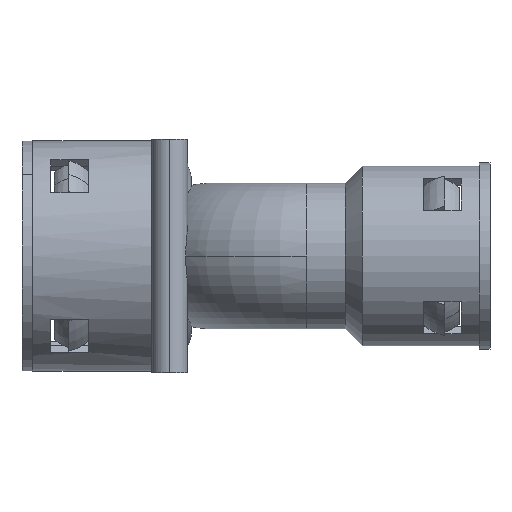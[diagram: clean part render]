
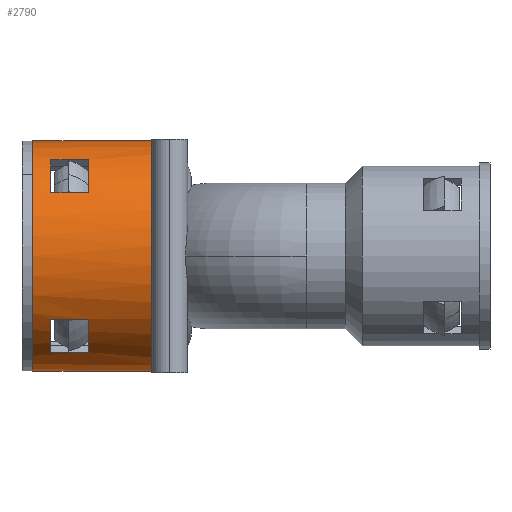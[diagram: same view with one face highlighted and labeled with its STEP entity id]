
A CAD part, left-side view. The second image highlights one B-rep face of the part: STEP entity #2790.
In plain terms, the highlighted cylindrical face has radius 32 mm (diameter 64 mm), a partial arc.
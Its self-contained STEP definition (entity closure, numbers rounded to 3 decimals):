
#62 = VERTEX_POINT ( 'NONE', #1481 ) ;
#68 = VERTEX_POINT ( 'NONE', #1480 ) ;
#101 = VERTEX_POINT ( 'NONE', #1557 ) ;
#102 = EDGE_CURVE ( 'NONE', #101, #68, #1553, .T. ) ;
#221 = VERTEX_POINT ( 'NONE', #3596 ) ;
#235 = EDGE_CURVE ( 'NONE', #62, #221, #3649, .T. ) ;
#479 = EDGE_CURVE ( 'NONE', #594, #572, #4122, .T. ) ;
#505 = ORIENTED_EDGE ( 'NONE', *, *, #479, .F. ) ;
#521 = ORIENTED_EDGE ( 'NONE', *, *, #102, .F. ) ;
#548 = ORIENTED_EDGE ( 'NONE', *, *, #561, .T. ) ;
#557 = ORIENTED_EDGE ( 'NONE', *, *, #2756, .F. ) ;
#561 = EDGE_CURVE ( 'NONE', #101, #62, #4321, .T. ) ;
#562 = ORIENTED_EDGE ( 'NONE', *, *, #924, .F. ) ;
#572 = VERTEX_POINT ( 'NONE', #4303 ) ;
#574 = VERTEX_POINT ( 'NONE', #4277 ) ;
#575 = EDGE_LOOP ( 'NONE', ( #595, #505, #590, #2042 ) ) ;
#589 = EDGE_CURVE ( 'NONE', #591, #594, #4346, .T. ) ;
#590 = ORIENTED_EDGE ( 'NONE', *, *, #589, .F. ) ;
#591 = VERTEX_POINT ( 'NONE', #4332 ) ;
#592 = EDGE_CURVE ( 'NONE', #572, #574, #4331, .T. ) ;
#593 = ORIENTED_EDGE ( 'NONE', *, *, #2959, .F. ) ;
#594 = VERTEX_POINT ( 'NONE', #4339 ) ;
#595 = ORIENTED_EDGE ( 'NONE', *, *, #592, .F. ) ;
#606 = ORIENTED_EDGE ( 'NONE', *, *, #235, .T. ) ;
#924 = EDGE_CURVE ( 'NONE', #10757, #10748, #4948, .T. ) ;
#1480 = CARTESIAN_POINT ( 'NONE',  ( 0., 91., 32. ) ) ;
#1481 = CARTESIAN_POINT ( 'NONE',  ( 0., 124., -32. ) ) ;
#1550 = DIRECTION ( 'NONE',  ( 0., -1., 0. ) ) ;
#1552 = CARTESIAN_POINT ( 'NONE',  ( 0., 0., 32. ) ) ;
#1553 = LINE ( 'NONE', #1552, #1554 ) ;
#1554 = VECTOR ( 'NONE', #1550, 1000. ) ;
#1557 = CARTESIAN_POINT ( 'NONE',  ( 0., 124., 32. ) ) ;
#2041 = VERTEX_POINT ( 'NONE', #6690 ) ;
#2042 = ORIENTED_EDGE ( 'NONE', *, *, #2172, .F. ) ;
#2118 = EDGE_CURVE ( 'NONE', #2166, #2149, #6830, .T. ) ;
#2119 = VERTEX_POINT ( 'NONE', #6822 ) ;
#2139 = EDGE_CURVE ( 'NONE', #2041, #2166, #6857, .T. ) ;
#2140 = ORIENTED_EDGE ( 'NONE', *, *, #2164, .F. ) ;
#2148 = ORIENTED_EDGE ( 'NONE', *, *, #2118, .F. ) ;
#2149 = VERTEX_POINT ( 'NONE', #6846 ) ;
#2161 = ORIENTED_EDGE ( 'NONE', *, *, #2173, .F. ) ;
#2164 = EDGE_CURVE ( 'NONE', #2149, #2119, #6842, .T. ) ;
#2166 = VERTEX_POINT ( 'NONE', #6922 ) ;
#2167 = EDGE_LOOP ( 'NONE', ( #2140, #2148, #2169, #2161 ) ) ;
#2169 = ORIENTED_EDGE ( 'NONE', *, *, #2139, .F. ) ;
#2172 = EDGE_CURVE ( 'NONE', #574, #591, #6865, .T. ) ;
#2173 = EDGE_CURVE ( 'NONE', #2119, #2041, #6921, .T. ) ;
#2747 = EDGE_LOOP ( 'NONE', ( #521, #548, #606, #593, #562, #557 ) ) ;
#2756 = EDGE_CURVE ( 'NONE', #68, #10757, #7807, .T. ) ;
#2790 = ADVANCED_FACE ( 'NONE', ( #7857, #7885, #7926 ), #7828, .T. ) ;
#2959 = EDGE_CURVE ( 'NONE', #10748, #221, #8512, .T. ) ;
#3411 = DIRECTION ( 'NONE',  ( 0., -1., 0. ) ) ;
#3415 = DIRECTION ( 'NONE',  ( 0., 0., 1. ) ) ;
#3596 = CARTESIAN_POINT ( 'NONE',  ( 0., 91., -32. ) ) ;
#3615 = VECTOR ( 'NONE', #3621, 1000. ) ;
#3621 = DIRECTION ( 'NONE',  ( 0., -1., 0. ) ) ;
#3622 = CARTESIAN_POINT ( 'NONE',  ( 0., 0., -32. ) ) ;
#3649 = LINE ( 'NONE', #3622, #3615 ) ;
#4099 = AXIS2_PLACEMENT_3D ( 'NONE', #4130, #3411, #3415 ) ;
#4122 = CIRCLE ( 'NONE', #4099, 32. ) ;
#4130 = CARTESIAN_POINT ( 'NONE',  ( 0., 119., 0. ) ) ;
#4277 = CARTESIAN_POINT ( 'NONE',  ( -26.752, 108.5, 17.56 ) ) ;
#4303 = CARTESIAN_POINT ( 'NONE',  ( -26.752, 119., 17.56 ) ) ;
#4308 = DIRECTION ( 'NONE',  ( 0., 0., -1. ) ) ;
#4309 = DIRECTION ( 'NONE',  ( 0., -1., 0. ) ) ;
#4317 = CARTESIAN_POINT ( 'NONE',  ( 0., 124., 0. ) ) ;
#4318 = AXIS2_PLACEMENT_3D ( 'NONE', #4317, #4309, #4308 ) ;
#4321 = CIRCLE ( 'NONE', #4318, 32. ) ;
#4327 = VECTOR ( 'NONE', #4390, 1000. ) ;
#4330 = DIRECTION ( 'NONE',  ( 0., 1., 0. ) ) ;
#4331 = LINE ( 'NONE', #4334, #4327 ) ;
#4332 = CARTESIAN_POINT ( 'NONE',  ( -17.56, 108.5, 26.752 ) ) ;
#4334 = CARTESIAN_POINT ( 'NONE',  ( -26.752, 0., 17.56 ) ) ;
#4339 = CARTESIAN_POINT ( 'NONE',  ( -17.56, 119., 26.752 ) ) ;
#4344 = VECTOR ( 'NONE', #4330, 1000. ) ;
#4345 = CARTESIAN_POINT ( 'NONE',  ( -17.56, 0., 26.752 ) ) ;
#4346 = LINE ( 'NONE', #4345, #4344 ) ;
#4390 = DIRECTION ( 'NONE',  ( 0., -1., 0. ) ) ;
#4934 = DIRECTION ( 'NONE',  ( 0., 0., -1. ) ) ;
#4935 = DIRECTION ( 'NONE',  ( 0., -1., 0. ) ) ;
#4936 = CARTESIAN_POINT ( 'NONE',  ( 0., 91., 0. ) ) ;
#4937 = AXIS2_PLACEMENT_3D ( 'NONE', #4936, #4935, #4934 ) ;
#4948 = CIRCLE ( 'NONE', #4937, 32. ) ;
#6690 = CARTESIAN_POINT ( 'NONE',  ( -17.56, 119., -26.752 ) ) ;
#6819 = DIRECTION ( 'NONE',  ( 0., 0., -1. ) ) ;
#6820 = DIRECTION ( 'NONE',  ( 0., 1., 0. ) ) ;
#6821 = AXIS2_PLACEMENT_3D ( 'NONE', #6827, #6820, #6819 ) ;
#6822 = CARTESIAN_POINT ( 'NONE',  ( -26.752, 119., -17.56 ) ) ;
#6827 = CARTESIAN_POINT ( 'NONE',  ( 0., 108.5, 0. ) ) ;
#6830 = CIRCLE ( 'NONE', #6821, 32. ) ;
#6839 = DIRECTION ( 'NONE',  ( 0., -1., 0. ) ) ;
#6840 = VECTOR ( 'NONE', #6839, 1000. ) ;
#6841 = CARTESIAN_POINT ( 'NONE',  ( -26.752, 0., -17.56 ) ) ;
#6842 = LINE ( 'NONE', #6841, #6924 ) ;
#6846 = CARTESIAN_POINT ( 'NONE',  ( -26.752, 108.5, -17.56 ) ) ;
#6856 = CARTESIAN_POINT ( 'NONE',  ( -17.56, 0., -26.752 ) ) ;
#6857 = LINE ( 'NONE', #6856, #6840 ) ;
#6861 = AXIS2_PLACEMENT_3D ( 'NONE', #6908, #6904, #6903 ) ;
#6865 = CIRCLE ( 'NONE', #6912, 32. ) ;
#6903 = DIRECTION ( 'NONE',  ( 0., 0., 1. ) ) ;
#6904 = DIRECTION ( 'NONE',  ( 0., -1., 0. ) ) ;
#6908 = CARTESIAN_POINT ( 'NONE',  ( 0., 119., 0. ) ) ;
#6909 = DIRECTION ( 'NONE',  ( 0., 0., -1. ) ) ;
#6910 = DIRECTION ( 'NONE',  ( 0., 1., 0. ) ) ;
#6911 = CARTESIAN_POINT ( 'NONE',  ( 0., 108.5, 0. ) ) ;
#6912 = AXIS2_PLACEMENT_3D ( 'NONE', #6911, #6910, #6909 ) ;
#6921 = CIRCLE ( 'NONE', #6861, 32. ) ;
#6922 = CARTESIAN_POINT ( 'NONE',  ( -17.56, 108.5, -26.752 ) ) ;
#6923 = DIRECTION ( 'NONE',  ( 0., 1., 0. ) ) ;
#6924 = VECTOR ( 'NONE', #6923, 1000. ) ;
#7807 = CIRCLE ( 'NONE', #7853, 32. ) ;
#7828 = CYLINDRICAL_SURFACE ( 'NONE', #7859, 32. ) ;
#7850 = DIRECTION ( 'NONE',  ( 0., 0., -1. ) ) ;
#7851 = DIRECTION ( 'NONE',  ( 0., -1., 0. ) ) ;
#7852 = CARTESIAN_POINT ( 'NONE',  ( 0., 91., 0. ) ) ;
#7853 = AXIS2_PLACEMENT_3D ( 'NONE', #7852, #7851, #7850 ) ;
#7857 = FACE_OUTER_BOUND ( 'NONE', #2747, .T. ) ;
#7858 = DIRECTION ( 'NONE',  ( 0., 0., -1. ) ) ;
#7859 = AXIS2_PLACEMENT_3D ( 'NONE', #7925, #7884, #7858 ) ;
#7884 = DIRECTION ( 'NONE',  ( 0., -1., 0. ) ) ;
#7885 = FACE_BOUND ( 'NONE', #575, .T. ) ;
#7925 = CARTESIAN_POINT ( 'NONE',  ( 0., 0., 0. ) ) ;
#7926 = FACE_BOUND ( 'NONE', #2167, .T. ) ;
#8511 = AXIS2_PLACEMENT_3D ( 'NONE', #8538, #8537, #8536 ) ;
#8512 = CIRCLE ( 'NONE', #8511, 32. ) ;
#8536 = DIRECTION ( 'NONE',  ( 0., 0., -1. ) ) ;
#8537 = DIRECTION ( 'NONE',  ( 0., -1., 0. ) ) ;
#8538 = CARTESIAN_POINT ( 'NONE',  ( 0., 91., 0. ) ) ;
#9990 = CARTESIAN_POINT ( 'NONE',  ( -31., 91., -7.937 ) ) ;
#10026 = CARTESIAN_POINT ( 'NONE',  ( -31., 91., 7.937 ) ) ;
#10748 = VERTEX_POINT ( 'NONE', #9990 ) ;
#10757 = VERTEX_POINT ( 'NONE', #10026 ) ;
